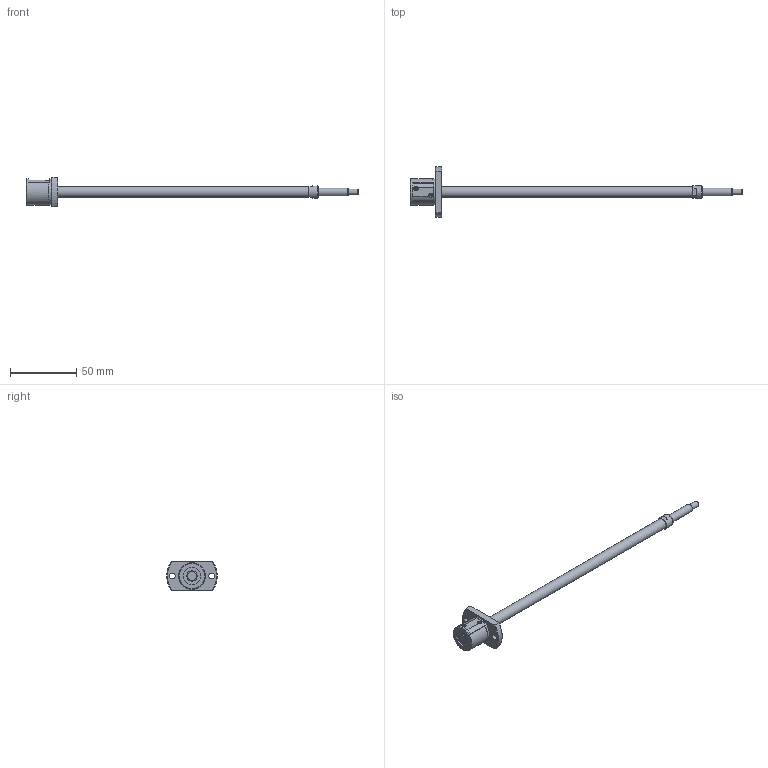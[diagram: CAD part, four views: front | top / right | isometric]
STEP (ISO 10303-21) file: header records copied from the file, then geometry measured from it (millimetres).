
FILE_DESCRIPTION( ( 'STEP AP203' ), '1' );
FILE_NAME( 'e:/temp/worker_93/temp/exporttempdir_3516_168_rJNMU/format_0/SG0802-209R250C5A1X(0).stp', '2021-10-19T02:45:58', ( 'License CC BY-ND 4.0' ), ( 'CADENAS' ), ' ', 'PARTsolutions', ' ' );
FILE_SCHEMA( ( 'CONFIG_CONTROL_DESIGN' ) );
Length unit declared in the file: millimetre
Products named in the file (3): SG0802-209R250C5A1X(0); _SG0802-209R250C5A_shaft; _SG0802 C5_nut
Assembly tree (2 placements, depth 2):
  SG0802-209R250C5A1X(0)
    _SG0802-209R250C5A_shaft
    _SG0802 C5_nut
Bounding box: 250 x 38 x 22 mm (x, y, z)
Volume: 20112.3 mm3; surface area: 10133.8 mm2
Topology: 2 solids, 2 shells, 72 faces, 178 edges, 117 vertices
Faces by surface type: plane 35, cylinder 23, cone 13, torus 1
Full cylindrical faces by diameter (mm): 4.5 x3, 6 x1, 8 x2, 9.5 x1, 13 x2, 19.7 x1, 20 x1
Entity records: 2104 total; most frequent: CARTESIAN_POINT 401, DIRECTION 346, ORIENTED_EDGE 292, EDGE_CURVE 146, AXIS2_PLACEMENT_3D 143, EDGE_LOOP 106, VERTEX_POINT 106, FACE_OUTER_BOUND 84
